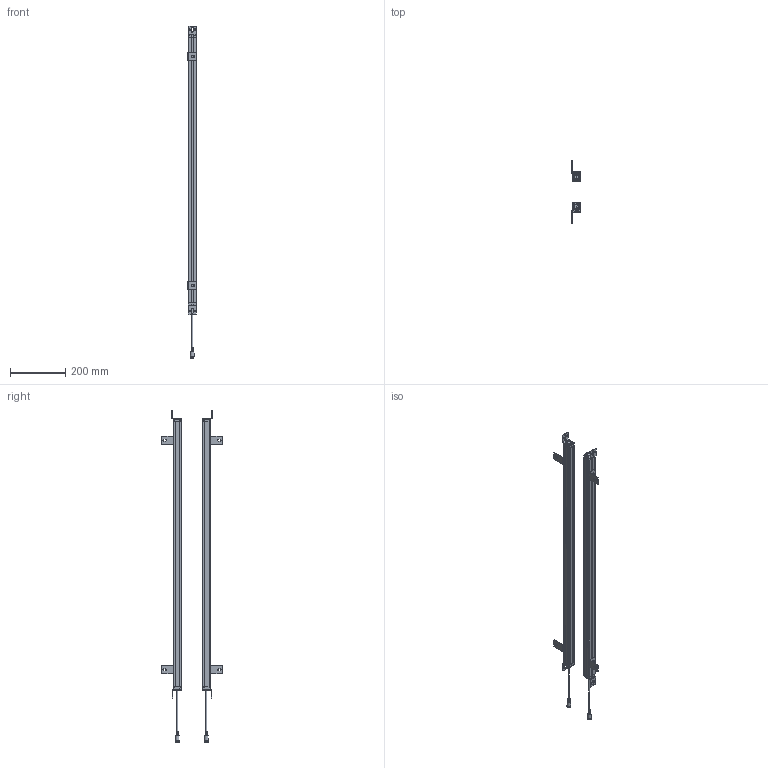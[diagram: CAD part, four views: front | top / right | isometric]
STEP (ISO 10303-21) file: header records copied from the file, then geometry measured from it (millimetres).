
FILE_DESCRIPTION(/* description */ (''),/* implementation_level */ '2;1');
FILE_NAME(/* name */ '4820（29x30）.stp',/* time_stamp */ '2023-04-28T14:36:48+08:00',/* author */ (''),/* organization */ (''),/* preprocessor_version */ 'ST-DEVELOPER v16.7',/* originating_system */ 'SIEMENS PLM Software NX 12.0',/* authorisation */ '');
FILE_SCHEMA (('AUTOMOTIVE_DESIGN { 1 0 10303 214 3 1 1 1 }'));
Products named in the file (1): 4820（29x30）_stp
Bounding box: 32.03 x 223.99 x 1201 mm (x, y, z)
Volume: 619807 mm3; surface area: 639783.2 mm2
Topology: 34 solids, 34 shells, 1610 faces, 4267 edges, 2771 vertices
Faces by surface type: plane 750, cylinder 648, bspline 88, sphere 36, cone 36, torus 32, extrusion 20
Full cylindrical faces by diameter (mm): 1.533 x6, 4.4 x4, 9 x2, 12.5 x2
Entity records: 56427 total; most frequent: CARTESIAN_POINT 16064, DIRECTION 8330, ORIENTED_EDGE 8324, EDGE_CURVE 4162, AXIS2_PLACEMENT_3D 2918, VERTEX_POINT 2696, VECTOR 2494, LINE 2474
